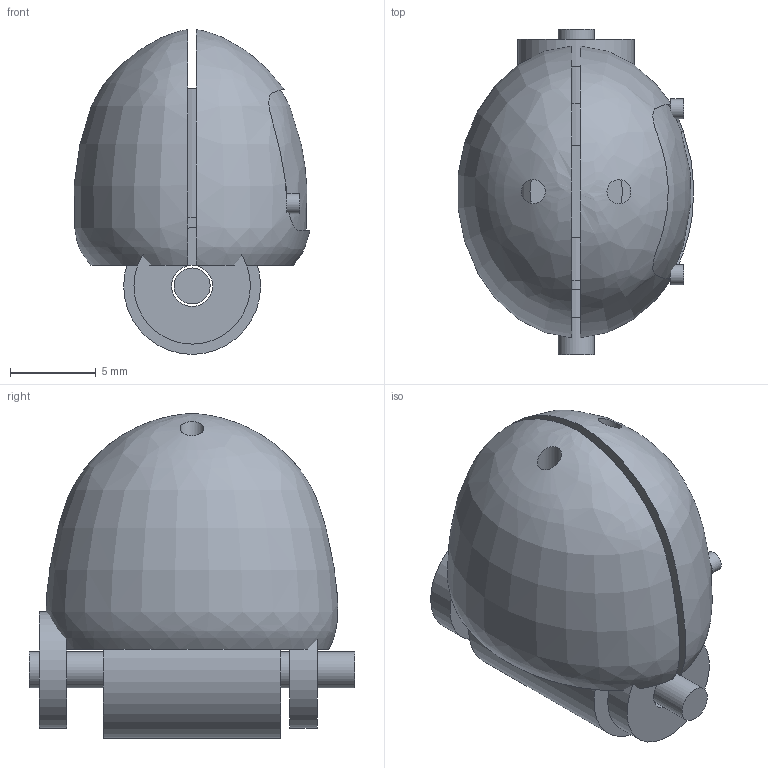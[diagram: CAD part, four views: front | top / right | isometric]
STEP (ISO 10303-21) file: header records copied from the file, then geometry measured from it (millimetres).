
FILE_DESCRIPTION(('FreeCAD Model'),'2;1');
FILE_NAME('Open CASCADE Shape Model','2026-10-05T09:23:01',('Author'),( ''),'Open CASCADE STEP processor 7.8','FreeCAD','Unknown');
FILE_SCHEMA(('AUTOMOTIVE_DESIGN { 1 0 10303 214 1 1 1 1 }'));
Length unit declared in the file: millimetre
Products named in the file (11): Export_thumb_distal; thumb_distalDorsalShell; thumb_distalFlexorShell; thumb_distalInsetPad; thumb_distalCore; thumb_distalHingeBarrel; thumb_distalCheek-1; thumb_distalCheek1; thumb_distalPin; thumb_distalScrew_-1_0.32; thumb_distalScrew_1_0.32
Assembly tree (10 placements, depth 2):
  Export_thumb_distal
    thumb_distalDorsalShell
    thumb_distalFlexorShell
    thumb_distalInsetPad
    thumb_distalCore
    thumb_distalHingeBarrel
    thumb_distalCheek-1
    thumb_distalCheek1
    thumb_distalPin
    thumb_distalScrew_-1_0.32
    thumb_distalScrew_1_0.32
Bounding box: 13.77 x 19 x 18.97 mm (x, y, z)
Volume: 2584.4 mm3; surface area: 2453.5 mm2
Topology: 10 solids, 10 shells, 65 faces, 120 edges, 74 vertices
Faces by surface type: plane 28, cylinder 26, sphere 8, bspline 3
Full cylindrical faces by diameter (mm): 0.464 x2, 1.16 x2, 1.4 x2, 2.1 x1, 2.4 x3, 5.4 x1, 6.8 x2, 8 x1
Entity records: 2919 total; most frequent: CARTESIAN_POINT 1493, DIRECTION 276, ORIENTED_EDGE 232, AXIS2_PLACEMENT_3D 119, EDGE_CURVE 116, FACE_BOUND 78, EDGE_LOOP 78, VERTEX_POINT 74
